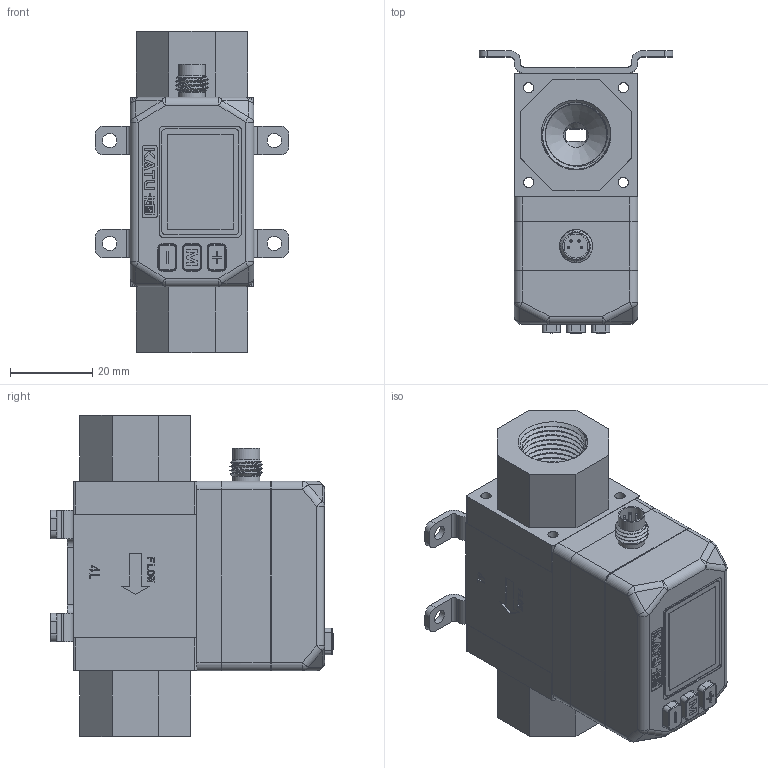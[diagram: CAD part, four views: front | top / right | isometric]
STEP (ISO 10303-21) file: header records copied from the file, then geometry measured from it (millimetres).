
FILE_DESCRIPTION( (''), '2;1');
FILE_NAME( 'QEKJ_4L_R3-8_M12_LED-display_bracket.step', '2023-12-14T18:03:54+08:00', (''), (''), '', '', '');
FILE_SCHEMA (('AUTOMOTIVE_DESIGN { 1 0 10303 214 3 1 1 1 }'));
Products named in the file (1): QEKJ 4L_R3-8_M12_LED-display_bracket
Bounding box: 47 x 68.6 x 78 mm (x, y, z)
Volume: 59799.2 mm3; surface area: 45620.6 mm2
Topology: 7 solids, 27 shells, 1427 faces, 3734 edges, 2454 vertices
Faces by surface type: plane 844, cylinder 303, extrusion 201, cone 30, torus 21, sphere 20, bspline 8
Full cylindrical faces by diameter (mm): 0.6 x4, 1.2 x3, 1.5 x4, 2 x12, 2.05 x4, 2.5 x12, 3 x17, 3.5 x7, 4 x1, 5 x4, 5.5 x1, 5.8 x2, 6 x2, 6.5 x2, 7.5 x1, 9.5 x2, 12 x3, 12.5 x2, 14 x1
Entity records: 56955 total; most frequent: CARTESIAN_POINT 19970, ORIENTED_EDGE 7076, DIRECTION 6179, EDGE_CURVE 3538, VECTOR 2479, VERTEX_POINT 2391, LINE 2278, AXIS2_PLACEMENT_3D 1850
